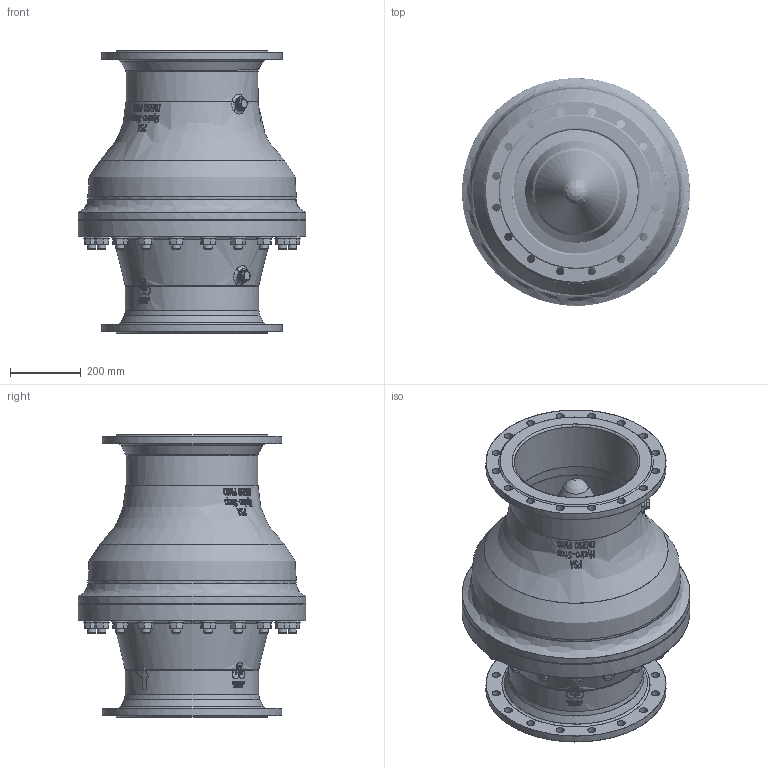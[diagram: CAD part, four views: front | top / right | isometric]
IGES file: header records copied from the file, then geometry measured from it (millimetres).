
Start section: P
Global section: file name: PSA_Hydro-Stop_DN350_PN10.igs; native system: By Siemens PLM Incorporated; preprocessor: XPlus GENERIC/IGES 25.1.153; author: Christin-Michelle Fremgen; organization: PSA Wasserarmaturen GmbH; date: 20241009.155206; units: millimetre
Bounding box: 645 x 644.73 x 799 mm (x, y, z)
Surface area: 3871922 mm2 (no closed solid volume)
Topology: 0 solids, 0 shells, 1540 faces, 8487 edges, 8485 vertices
Faces by surface type: bspline 1540
